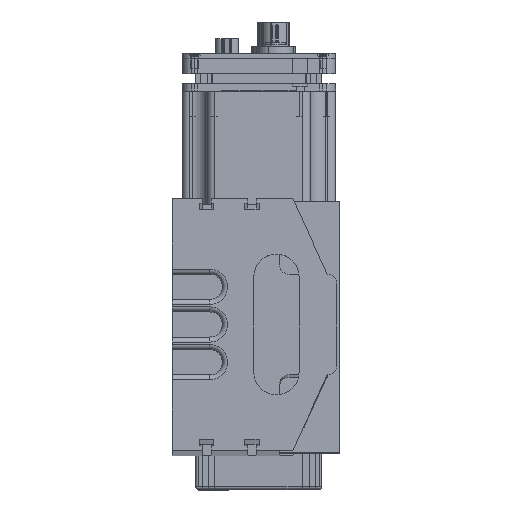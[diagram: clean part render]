
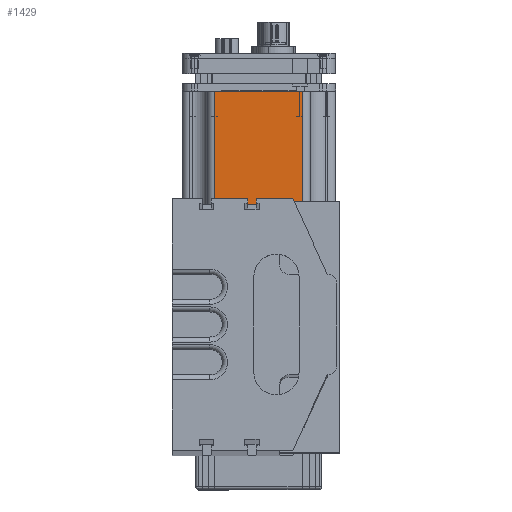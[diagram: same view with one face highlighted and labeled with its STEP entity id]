
A CAD part, top view. The second image highlights one B-rep face of the part: STEP entity #1429.
In plain terms, the highlighted planar face has unit normal (0, 0, 1).
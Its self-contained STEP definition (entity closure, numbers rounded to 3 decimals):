
#1156 = EDGE_CURVE ( 'NONE', #1440, #1305, #39685, .T. ) ;
#1195 = ORIENTED_EDGE ( 'NONE', *, *, #1220, .F. ) ;
#1220 = EDGE_CURVE ( 'NONE', #1305, #56049, #39931, .T. ) ;
#1249 = ORIENTED_EDGE ( 'NONE', *, *, #1314, .F. ) ;
#1302 = ORIENTED_EDGE ( 'NONE', *, *, #48110, .F. ) ;
#1305 = VERTEX_POINT ( 'NONE', #40103 ) ;
#1314 = EDGE_CURVE ( 'NONE', #56049, #1443, #40183, .T. ) ;
#1429 = ADVANCED_FACE ( 'NONE', ( #40529 ), #40519, .F. ) ;
#1440 = VERTEX_POINT ( 'NONE', #40542 ) ;
#1443 = VERTEX_POINT ( 'NONE', #40540 ) ;
#1546 = ORIENTED_EDGE ( 'NONE', *, *, #1777, .F. ) ;
#1777 = EDGE_CURVE ( 'NONE', #56200, #1440, #41578, .T. ) ;
#7546 = CARTESIAN_POINT ( 'NONE',  ( -24.5, 7., 30.5 ) ) ;
#8302 = DIRECTION ( 'NONE',  ( 1., 0., 0. ) ) ;
#8303 = VECTOR ( 'NONE', #8302, 1000. ) ;
#8304 = CARTESIAN_POINT ( 'NONE',  ( -24.5, 7., 30.5 ) ) ;
#8305 = LINE ( 'NONE', #8304, #8303 ) ;
#9001 = CARTESIAN_POINT ( 'NONE',  ( -17.5, 7., 30.5 ) ) ;
#15953 = CARTESIAN_POINT ( 'NONE',  ( -24.5, 0., 30.5 ) ) ;
#17966 = DIRECTION ( 'NONE',  ( 0., 1., 0. ) ) ;
#17967 = VECTOR ( 'NONE', #17966, 1000. ) ;
#17968 = CARTESIAN_POINT ( 'NONE',  ( -24.5, 7., 30.5 ) ) ;
#17971 = LINE ( 'NONE', #17968, #17967 ) ;
#34175 = CARTESIAN_POINT ( 'NONE',  ( 24.5, 7., 30.5 ) ) ;
#34687 = CARTESIAN_POINT ( 'NONE',  ( -24.5, 0., 30.5 ) ) ;
#34688 = LINE ( 'NONE', #34687, #34740 ) ;
#34711 = CARTESIAN_POINT ( 'NONE',  ( -17.5, 94., 30.5 ) ) ;
#34739 = DIRECTION ( 'NONE',  ( 1., 0., 0. ) ) ;
#34740 = VECTOR ( 'NONE', #34739, 1000. ) ;
#35165 = CARTESIAN_POINT ( 'NONE',  ( -17.5, 7., 30.5 ) ) ;
#35166 = LINE ( 'NONE', #35165, #35181 ) ;
#35180 = DIRECTION ( 'NONE',  ( 0., 1., 0. ) ) ;
#35181 = VECTOR ( 'NONE', #35180, 1000. ) ;
#36077 = VERTEX_POINT ( 'NONE', #7546 ) ;
#37906 = EDGE_CURVE ( 'NONE', #36077, #38052, #8305, .T. ) ;
#38052 = VERTEX_POINT ( 'NONE', #9001 ) ;
#39685 = LINE ( 'NONE', #39701, #39750 ) ;
#39700 = DIRECTION ( 'NONE',  ( 0., -1., 0. ) ) ;
#39701 = CARTESIAN_POINT ( 'NONE',  ( 17.5, 95.35, 30.5 ) ) ;
#39750 = VECTOR ( 'NONE', #39700, 1000. ) ;
#39928 = DIRECTION ( 'NONE',  ( 1., 0., 0. ) ) ;
#39929 = VECTOR ( 'NONE', #39928, 1000. ) ;
#39930 = CARTESIAN_POINT ( 'NONE',  ( -24.5, 7., 30.5 ) ) ;
#39931 = LINE ( 'NONE', #39930, #39929 ) ;
#40103 = CARTESIAN_POINT ( 'NONE',  ( 17.5, 7., 30.5 ) ) ;
#40180 = DIRECTION ( 'NONE',  ( 0., -1., 0. ) ) ;
#40181 = VECTOR ( 'NONE', #40180, 1000. ) ;
#40182 = CARTESIAN_POINT ( 'NONE',  ( 24.5, 7., 30.5 ) ) ;
#40183 = LINE ( 'NONE', #40182, #40181 ) ;
#40519 = PLANE ( 'NONE',  #40530 ) ;
#40529 = FACE_OUTER_BOUND ( 'NONE', #56106, .T. ) ;
#40530 = AXIS2_PLACEMENT_3D ( 'NONE', #40560, #40559, #40558 ) ;
#40540 = CARTESIAN_POINT ( 'NONE',  ( 24.5, 0., 30.5 ) ) ;
#40542 = CARTESIAN_POINT ( 'NONE',  ( 17.5, 94., 30.5 ) ) ;
#40558 = DIRECTION ( 'NONE',  ( -1., 0., 0. ) ) ;
#40559 = DIRECTION ( 'NONE',  ( 0., 0., -1. ) ) ;
#40560 = CARTESIAN_POINT ( 'NONE',  ( -24.5, 7., 30.5 ) ) ;
#41564 = DIRECTION ( 'NONE',  ( 1., 0., 0. ) ) ;
#41565 = VECTOR ( 'NONE', #41564, 1000. ) ;
#41566 = CARTESIAN_POINT ( 'NONE',  ( 26.5, 94., 30.5 ) ) ;
#41578 = LINE ( 'NONE', #41566, #41565 ) ;
#47463 = VERTEX_POINT ( 'NONE', #15953 ) ;
#48110 = EDGE_CURVE ( 'NONE', #47463, #36077, #17971, .T. ) ;
#55784 = ORIENTED_EDGE ( 'NONE', *, *, #56338, .F. ) ;
#56049 = VERTEX_POINT ( 'NONE', #34175 ) ;
#56057 = ORIENTED_EDGE ( 'NONE', *, *, #56221, .T. ) ;
#56094 = ORIENTED_EDGE ( 'NONE', *, *, #37906, .F. ) ;
#56106 = EDGE_LOOP ( 'NONE', ( #55784, #56094, #1302, #56057, #1249, #1195, #56317, #1546 ) ) ;
#56200 = VERTEX_POINT ( 'NONE', #34711 ) ;
#56221 = EDGE_CURVE ( 'NONE', #47463, #1443, #34688, .T. ) ;
#56317 = ORIENTED_EDGE ( 'NONE', *, *, #1156, .F. ) ;
#56338 = EDGE_CURVE ( 'NONE', #38052, #56200, #35166, .T. ) ;
